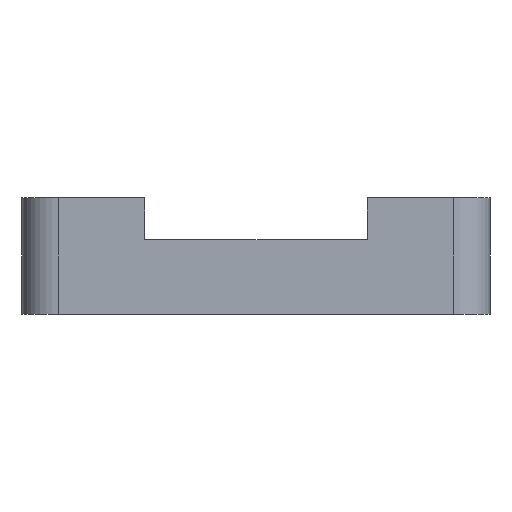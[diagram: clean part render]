
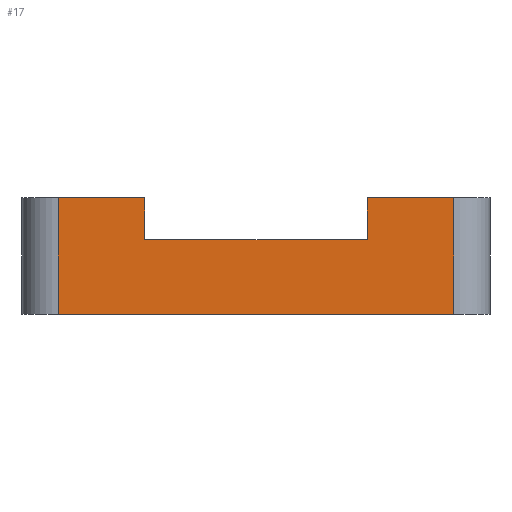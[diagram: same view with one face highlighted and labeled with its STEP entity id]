
A CAD part, left-side view. The second image highlights one B-rep face of the part: STEP entity #17.
In plain terms, the highlighted planar face has unit normal (-1, 0, 0).
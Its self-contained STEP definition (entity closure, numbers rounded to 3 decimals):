
#17 = ADVANCED_FACE('',(#18),#32,.F.);
#18 = FACE_BOUND('',#19,.T.);
#19 = EDGE_LOOP('',(#20,#55,#83,#111,#139,#167,#195,#223));
#20 = ORIENTED_EDGE('',*,*,#21,.F.);
#21 = EDGE_CURVE('',#22,#24,#26,.T.);
#22 = VERTEX_POINT('',#23);
#23 = CARTESIAN_POINT('',(-2.2,19.1,6.4));
#24 = VERTEX_POINT('',#25);
#25 = CARTESIAN_POINT('',(-2.2,14.35,6.4));
#26 = SURFACE_CURVE('',#27,(#31,#43),.PCURVE_S1.);
#27 = LINE('',#28,#29);
#28 = CARTESIAN_POINT('',(-2.2,21.1,6.4));
#29 = VECTOR('',#30,1.);
#30 = DIRECTION('',(0.,-1.,0.));
#31 = PCURVE('',#32,#37);
#32 = PLANE('',#33);
#33 = AXIS2_PLACEMENT_3D('',#34,#35,#36);
#34 = CARTESIAN_POINT('',(-2.2,21.1,0.));
#35 = DIRECTION('',(1.,0.,-0.));
#36 = DIRECTION('',(0.,0.,-1.));
#37 = DEFINITIONAL_REPRESENTATION('',(#38),#42);
#38 = LINE('',#39,#40);
#39 = CARTESIAN_POINT('',(-6.4,0.));
#40 = VECTOR('',#41,1.);
#41 = DIRECTION('',(-0.,-1.));
#42 = ( GEOMETRIC_REPRESENTATION_CONTEXT(2) 
PARAMETRIC_REPRESENTATION_CONTEXT() REPRESENTATION_CONTEXT('2D SPACE',''
  ) );
#43 = PCURVE('',#44,#49);
#44 = PLANE('',#45);
#45 = AXIS2_PLACEMENT_3D('',#46,#47,#48);
#46 = CARTESIAN_POINT('',(-2.2,21.1,6.4));
#47 = DIRECTION('',(0.,0.,1.));
#48 = DIRECTION('',(-1.,0.,0.));
#49 = DEFINITIONAL_REPRESENTATION('',(#50),#54);
#50 = LINE('',#51,#52);
#51 = CARTESIAN_POINT('',(-0.,-0.));
#52 = VECTOR('',#53,1.);
#53 = DIRECTION('',(-0.,1.));
#54 = ( GEOMETRIC_REPRESENTATION_CONTEXT(2) 
PARAMETRIC_REPRESENTATION_CONTEXT() REPRESENTATION_CONTEXT('2D SPACE',''
  ) );
#55 = ORIENTED_EDGE('',*,*,#56,.F.);
#56 = EDGE_CURVE('',#57,#22,#59,.T.);
#57 = VERTEX_POINT('',#58);
#58 = CARTESIAN_POINT('',(-2.2,19.1,0.));
#59 = SURFACE_CURVE('',#60,(#64,#71),.PCURVE_S1.);
#60 = LINE('',#61,#62);
#61 = CARTESIAN_POINT('',(-2.2,19.1,0.));
#62 = VECTOR('',#63,1.);
#63 = DIRECTION('',(-0.,-0.,1.));
#64 = PCURVE('',#32,#65);
#65 = DEFINITIONAL_REPRESENTATION('',(#66),#70);
#66 = LINE('',#67,#68);
#67 = CARTESIAN_POINT('',(-0.,-2.));
#68 = VECTOR('',#69,1.);
#69 = DIRECTION('',(-1.,0.));
#70 = ( GEOMETRIC_REPRESENTATION_CONTEXT(2) 
PARAMETRIC_REPRESENTATION_CONTEXT() REPRESENTATION_CONTEXT('2D SPACE',''
  ) );
#71 = PCURVE('',#72,#77);
#72 = CYLINDRICAL_SURFACE('',#73,2.);
#73 = AXIS2_PLACEMENT_3D('',#74,#75,#76);
#74 = CARTESIAN_POINT('',(-0.2,19.1,0.));
#75 = DIRECTION('',(-0.,-0.,1.));
#76 = DIRECTION('',(-1.,-0.,0.));
#77 = DEFINITIONAL_REPRESENTATION('',(#78),#82);
#78 = LINE('',#79,#80);
#79 = CARTESIAN_POINT('',(-0.,0.));
#80 = VECTOR('',#81,1.);
#81 = DIRECTION('',(-0.,1.));
#82 = ( GEOMETRIC_REPRESENTATION_CONTEXT(2) 
PARAMETRIC_REPRESENTATION_CONTEXT() REPRESENTATION_CONTEXT('2D SPACE',''
  ) );
#83 = ORIENTED_EDGE('',*,*,#84,.T.);
#84 = EDGE_CURVE('',#57,#85,#87,.T.);
#85 = VERTEX_POINT('',#86);
#86 = CARTESIAN_POINT('',(-2.2,-2.6,0.));
#87 = SURFACE_CURVE('',#88,(#92,#99),.PCURVE_S1.);
#88 = LINE('',#89,#90);
#89 = CARTESIAN_POINT('',(-2.2,21.1,0.));
#90 = VECTOR('',#91,1.);
#91 = DIRECTION('',(0.,-1.,0.));
#92 = PCURVE('',#32,#93);
#93 = DEFINITIONAL_REPRESENTATION('',(#94),#98);
#94 = LINE('',#95,#96);
#95 = CARTESIAN_POINT('',(-0.,0.));
#96 = VECTOR('',#97,1.);
#97 = DIRECTION('',(-0.,-1.));
#98 = ( GEOMETRIC_REPRESENTATION_CONTEXT(2) 
PARAMETRIC_REPRESENTATION_CONTEXT() REPRESENTATION_CONTEXT('2D SPACE',''
  ) );
#99 = PCURVE('',#100,#105);
#100 = PLANE('',#101);
#101 = AXIS2_PLACEMENT_3D('',#102,#103,#104);
#102 = CARTESIAN_POINT('',(-2.2,21.1,0.));
#103 = DIRECTION('',(0.,0.,1.));
#104 = DIRECTION('',(-1.,0.,0.));
#105 = DEFINITIONAL_REPRESENTATION('',(#106),#110);
#106 = LINE('',#107,#108);
#107 = CARTESIAN_POINT('',(-0.,-0.));
#108 = VECTOR('',#109,1.);
#109 = DIRECTION('',(-0.,1.));
#110 = ( GEOMETRIC_REPRESENTATION_CONTEXT(2) 
PARAMETRIC_REPRESENTATION_CONTEXT() REPRESENTATION_CONTEXT('2D SPACE',''
  ) );
#111 = ORIENTED_EDGE('',*,*,#112,.T.);
#112 = EDGE_CURVE('',#85,#113,#115,.T.);
#113 = VERTEX_POINT('',#114);
#114 = CARTESIAN_POINT('',(-2.2,-2.6,6.4));
#115 = SURFACE_CURVE('',#116,(#120,#127),.PCURVE_S1.);
#116 = LINE('',#117,#118);
#117 = CARTESIAN_POINT('',(-2.2,-2.6,0.));
#118 = VECTOR('',#119,1.);
#119 = DIRECTION('',(-0.,-0.,1.));
#120 = PCURVE('',#32,#121);
#121 = DEFINITIONAL_REPRESENTATION('',(#122),#126);
#122 = LINE('',#123,#124);
#123 = CARTESIAN_POINT('',(-0.,-23.7));
#124 = VECTOR('',#125,1.);
#125 = DIRECTION('',(-1.,0.));
#126 = ( GEOMETRIC_REPRESENTATION_CONTEXT(2) 
PARAMETRIC_REPRESENTATION_CONTEXT() REPRESENTATION_CONTEXT('2D SPACE',''
  ) );
#127 = PCURVE('',#128,#133);
#128 = CYLINDRICAL_SURFACE('',#129,2.);
#129 = AXIS2_PLACEMENT_3D('',#130,#131,#132);
#130 = CARTESIAN_POINT('',(-0.2,-2.6,0.));
#131 = DIRECTION('',(-0.,-0.,1.));
#132 = DIRECTION('',(-1.,-0.,0.));
#133 = DEFINITIONAL_REPRESENTATION('',(#134),#138);
#134 = LINE('',#135,#136);
#135 = CARTESIAN_POINT('',(0.,0.));
#136 = VECTOR('',#137,1.);
#137 = DIRECTION('',(0.,1.));
#138 = ( GEOMETRIC_REPRESENTATION_CONTEXT(2) 
PARAMETRIC_REPRESENTATION_CONTEXT() REPRESENTATION_CONTEXT('2D SPACE',''
  ) );
#139 = ORIENTED_EDGE('',*,*,#140,.F.);
#140 = EDGE_CURVE('',#141,#113,#143,.T.);
#141 = VERTEX_POINT('',#142);
#142 = CARTESIAN_POINT('',(-2.2,2.15,6.4));
#143 = SURFACE_CURVE('',#144,(#148,#155),.PCURVE_S1.);
#144 = LINE('',#145,#146);
#145 = CARTESIAN_POINT('',(-2.2,21.1,6.4));
#146 = VECTOR('',#147,1.);
#147 = DIRECTION('',(0.,-1.,0.));
#148 = PCURVE('',#32,#149);
#149 = DEFINITIONAL_REPRESENTATION('',(#150),#154);
#150 = LINE('',#151,#152);
#151 = CARTESIAN_POINT('',(-6.4,0.));
#152 = VECTOR('',#153,1.);
#153 = DIRECTION('',(-0.,-1.));
#154 = ( GEOMETRIC_REPRESENTATION_CONTEXT(2) 
PARAMETRIC_REPRESENTATION_CONTEXT() REPRESENTATION_CONTEXT('2D SPACE',''
  ) );
#155 = PCURVE('',#156,#161);
#156 = PLANE('',#157);
#157 = AXIS2_PLACEMENT_3D('',#158,#159,#160);
#158 = CARTESIAN_POINT('',(-2.2,21.1,6.4));
#159 = DIRECTION('',(0.,0.,1.));
#160 = DIRECTION('',(-1.,0.,0.));
#161 = DEFINITIONAL_REPRESENTATION('',(#162),#166);
#162 = LINE('',#163,#164);
#163 = CARTESIAN_POINT('',(-0.,-0.));
#164 = VECTOR('',#165,1.);
#165 = DIRECTION('',(-0.,1.));
#166 = ( GEOMETRIC_REPRESENTATION_CONTEXT(2) 
PARAMETRIC_REPRESENTATION_CONTEXT() REPRESENTATION_CONTEXT('2D SPACE',''
  ) );
#167 = ORIENTED_EDGE('',*,*,#168,.F.);
#168 = EDGE_CURVE('',#169,#141,#171,.T.);
#169 = VERTEX_POINT('',#170);
#170 = CARTESIAN_POINT('',(-2.2,2.15,4.1));
#171 = SURFACE_CURVE('',#172,(#176,#183),.PCURVE_S1.);
#172 = LINE('',#173,#174);
#173 = CARTESIAN_POINT('',(-2.2,2.15,2.05));
#174 = VECTOR('',#175,1.);
#175 = DIRECTION('',(-0.,-0.,1.));
#176 = PCURVE('',#32,#177);
#177 = DEFINITIONAL_REPRESENTATION('',(#178),#182);
#178 = LINE('',#179,#180);
#179 = CARTESIAN_POINT('',(-2.05,-18.95));
#180 = VECTOR('',#181,1.);
#181 = DIRECTION('',(-1.,0.));
#182 = ( GEOMETRIC_REPRESENTATION_CONTEXT(2) 
PARAMETRIC_REPRESENTATION_CONTEXT() REPRESENTATION_CONTEXT('2D SPACE',''
  ) );
#183 = PCURVE('',#184,#189);
#184 = PLANE('',#185);
#185 = AXIS2_PLACEMENT_3D('',#186,#187,#188);
#186 = CARTESIAN_POINT('',(-3.2,2.15,4.1));
#187 = DIRECTION('',(0.,-1.,0.));
#188 = DIRECTION('',(0.,0.,-1.));
#189 = DEFINITIONAL_REPRESENTATION('',(#190),#194);
#190 = LINE('',#191,#192);
#191 = CARTESIAN_POINT('',(2.05,1.));
#192 = VECTOR('',#193,1.);
#193 = DIRECTION('',(-1.,0.));
#194 = ( GEOMETRIC_REPRESENTATION_CONTEXT(2) 
PARAMETRIC_REPRESENTATION_CONTEXT() REPRESENTATION_CONTEXT('2D SPACE',''
  ) );
#195 = ORIENTED_EDGE('',*,*,#196,.T.);
#196 = EDGE_CURVE('',#169,#197,#199,.T.);
#197 = VERTEX_POINT('',#198);
#198 = CARTESIAN_POINT('',(-2.2,14.35,4.1));
#199 = SURFACE_CURVE('',#200,(#204,#211),.PCURVE_S1.);
#200 = LINE('',#201,#202);
#201 = CARTESIAN_POINT('',(-2.2,17.725,4.1));
#202 = VECTOR('',#203,1.);
#203 = DIRECTION('',(-0.,1.,-0.));
#204 = PCURVE('',#32,#205);
#205 = DEFINITIONAL_REPRESENTATION('',(#206),#210);
#206 = LINE('',#207,#208);
#207 = CARTESIAN_POINT('',(-4.1,-3.375));
#208 = VECTOR('',#209,1.);
#209 = DIRECTION('',(-0.,1.));
#210 = ( GEOMETRIC_REPRESENTATION_CONTEXT(2) 
PARAMETRIC_REPRESENTATION_CONTEXT() REPRESENTATION_CONTEXT('2D SPACE',''
  ) );
#211 = PCURVE('',#212,#217);
#212 = PLANE('',#213);
#213 = AXIS2_PLACEMENT_3D('',#214,#215,#216);
#214 = CARTESIAN_POINT('',(-3.2,14.35,4.1));
#215 = DIRECTION('',(0.,0.,1.));
#216 = DIRECTION('',(-1.,0.,0.));
#217 = DEFINITIONAL_REPRESENTATION('',(#218),#222);
#218 = LINE('',#219,#220);
#219 = CARTESIAN_POINT('',(-1.,-3.375));
#220 = VECTOR('',#221,1.);
#221 = DIRECTION('',(-0.,-1.));
#222 = ( GEOMETRIC_REPRESENTATION_CONTEXT(2) 
PARAMETRIC_REPRESENTATION_CONTEXT() REPRESENTATION_CONTEXT('2D SPACE',''
  ) );
#223 = ORIENTED_EDGE('',*,*,#224,.T.);
#224 = EDGE_CURVE('',#197,#24,#225,.T.);
#225 = SURFACE_CURVE('',#226,(#230,#237),.PCURVE_S1.);
#226 = LINE('',#227,#228);
#227 = CARTESIAN_POINT('',(-2.2,14.35,2.05));
#228 = VECTOR('',#229,1.);
#229 = DIRECTION('',(-0.,-0.,1.));
#230 = PCURVE('',#32,#231);
#231 = DEFINITIONAL_REPRESENTATION('',(#232),#236);
#232 = LINE('',#233,#234);
#233 = CARTESIAN_POINT('',(-2.05,-6.75));
#234 = VECTOR('',#235,1.);
#235 = DIRECTION('',(-1.,0.));
#236 = ( GEOMETRIC_REPRESENTATION_CONTEXT(2) 
PARAMETRIC_REPRESENTATION_CONTEXT() REPRESENTATION_CONTEXT('2D SPACE',''
  ) );
#237 = PCURVE('',#238,#243);
#238 = PLANE('',#239);
#239 = AXIS2_PLACEMENT_3D('',#240,#241,#242);
#240 = CARTESIAN_POINT('',(-3.2,14.35,4.1));
#241 = DIRECTION('',(0.,-1.,0.));
#242 = DIRECTION('',(0.,0.,-1.));
#243 = DEFINITIONAL_REPRESENTATION('',(#244),#248);
#244 = LINE('',#245,#246);
#245 = CARTESIAN_POINT('',(2.05,1.));
#246 = VECTOR('',#247,1.);
#247 = DIRECTION('',(-1.,0.));
#248 = ( GEOMETRIC_REPRESENTATION_CONTEXT(2) 
PARAMETRIC_REPRESENTATION_CONTEXT() REPRESENTATION_CONTEXT('2D SPACE',''
  ) );
